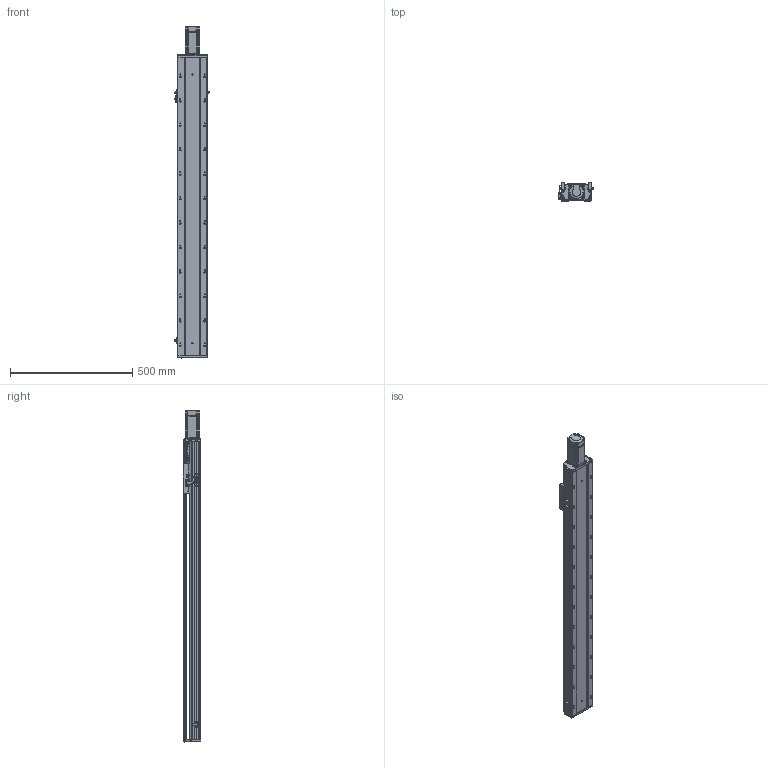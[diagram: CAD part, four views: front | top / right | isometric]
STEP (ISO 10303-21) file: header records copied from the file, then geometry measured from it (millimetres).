
FILE_DESCRIPTION (( 'STEP AP203' ), '1' );
FILE_NAME ('RYK120-L1610-S950-M40-C3-MK.STEP', '2026-03-09T07:23:17', ( '' ), ( '' ), 'SwSTEP 2.0', 'SolidWorks 2016', '' );
FILE_SCHEMA (( 'CONFIG_CONTROL_DESIGN' ));
Length unit declared in the file: millimetre
Products named in the file (17): CB╱T 3762-1996[锥形润滑油嘴1-ZM10×1]_1-ZM10×1; RY120电机端支撑座-压铸加工-M5; 侂狟400W侜督萇儂; 2.10.1.C521-V1.0RY120臏賑輸16蹟譫-啞-JZZY-NRL-L1899; RY120QGB-1.8; RYK170-薊粣ん芵隴裔啣; RY120-16螺母油路-集中注油组合; RYK120-300-MK-菁釱-啞_950; RY120綴裔啣; RYK120-L1610-S950-M40-C3-MK; 滅袉蝶18-24; RY120外置感应片(140共用）; 15; 覜茼ん672; RYK120-300-MK-奻裔啣-啞_950; 滅袉蝶18-10; 44-49-12-14
Assembly tree (21 placements, depth 3):
  RYK120-L1610-S950-M40-C3-MK
    RYK120-300-MK-菁釱-啞_950
    RYK120-300-MK-奻裔啣-啞_950
    RY120綴裔啣
    滅袉蝶18-24  x2
    滅袉蝶18-10  x2
    覜茼ん672  x3
    RY120外置感应片(140共用）
    RY120QGB-1.8
    RY120-16螺母油路-集中注油组合
      2.10.1.C521-V1.0RY120臏賑輸16蹟譫-啞-JZZY-NRL-L1899
      CB╱T 3762-1996[锥形润滑油嘴1-ZM10×1]_1-ZM10×1  x2
    RY120电机端支撑座-压铸加工-M5
    RYK170-薊粣ん芵隴裔啣
    44-49-12-14
    侂狟400W侜督萇儂
      15
Bounding box: 145.7 x 73 x 1358.5 mm (x, y, z)
Volume: 3583101.9 mm3; surface area: 1272312.5 mm2
Topology: 23 solids, 23 shells, 2828 faces, 7922 edges, 5075 vertices
Faces by surface type: plane 1251, cylinder 1165, cone 285, bspline 127
Entity records: 96400 total; most frequent: CARTESIAN_POINT 28884, ORIENTED_EDGE 14328, DIRECTION 12915, EDGE_CURVE 7164, VERTEX_POINT 4687, AXIS2_PLACEMENT_3D 4470, VECTOR 3975, LINE 3975
